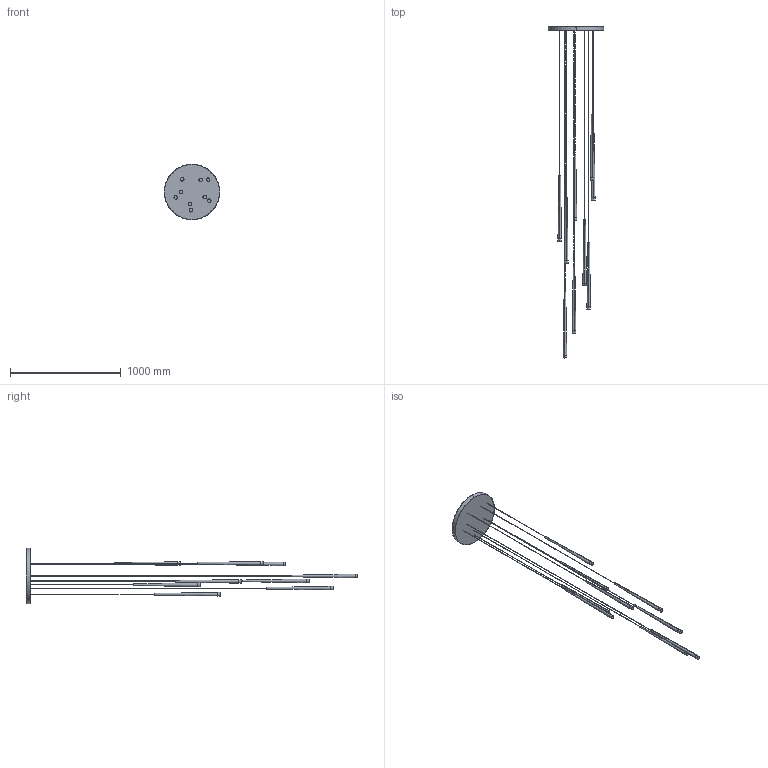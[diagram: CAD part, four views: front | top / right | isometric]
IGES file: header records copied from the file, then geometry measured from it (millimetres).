
Start section: SolidWorks IGES file using analytic representation for surfaces
Global section: file name: F:\燠隴矨\3D\10堎\10渾奻換\Slender Cone Chandelier-9H.IGS; native system: SolidWorks 2022; preprocessor: SolidWorks 2022; author: MyPC; date: 231014.115343; units: millimetre
Bounding box: 500 x 3000 x 500 mm (x, y, z)
Surface area: 1021525.3 mm2 (no closed solid volume)
Topology: 0 solids, 0 shells, 115 faces, 3080 edges, 3080 vertices
Faces by surface type: revolution 58, bspline 57
